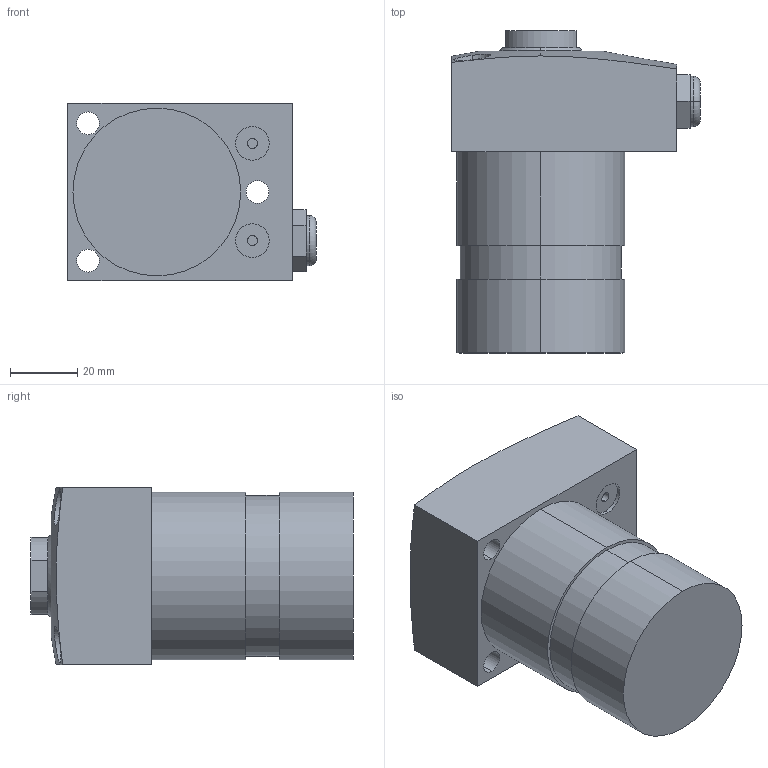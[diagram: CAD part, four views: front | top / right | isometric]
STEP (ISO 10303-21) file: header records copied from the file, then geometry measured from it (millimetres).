
FILE_DESCRIPTION (( 'STEP AP214' ), '1' );
FILE_NAME ('SP-FA25B.STEP', '2021-10-19T00:38:47', ( '' ), ( '' ), 'SwSTEP 2.0', 'SolidWorks 2016', '' );
FILE_SCHEMA (( 'AUTOMOTIVE_DESIGN' ));
Length unit declared in the file: millimetre
Products named in the file (1): SP-FA25B
Bounding box: 74 x 96 x 53 mm (x, y, z)
Volume: 213737.3 mm3; surface area: 27470.2 mm2
Topology: 1 solids, 2 shells, 79 faces, 176 edges, 110 vertices
Faces by surface type: cylinder 37, plane 30, cone 10, torus 2
Entity records: 2556 total; most frequent: CARTESIAN_POINT 667, DIRECTION 397, ORIENTED_EDGE 340, EDGE_CURVE 170, AXIS2_PLACEMENT_3D 159, VERTEX_POINT 110, EDGE_LOOP 100, ADVANCED_FACE 79
